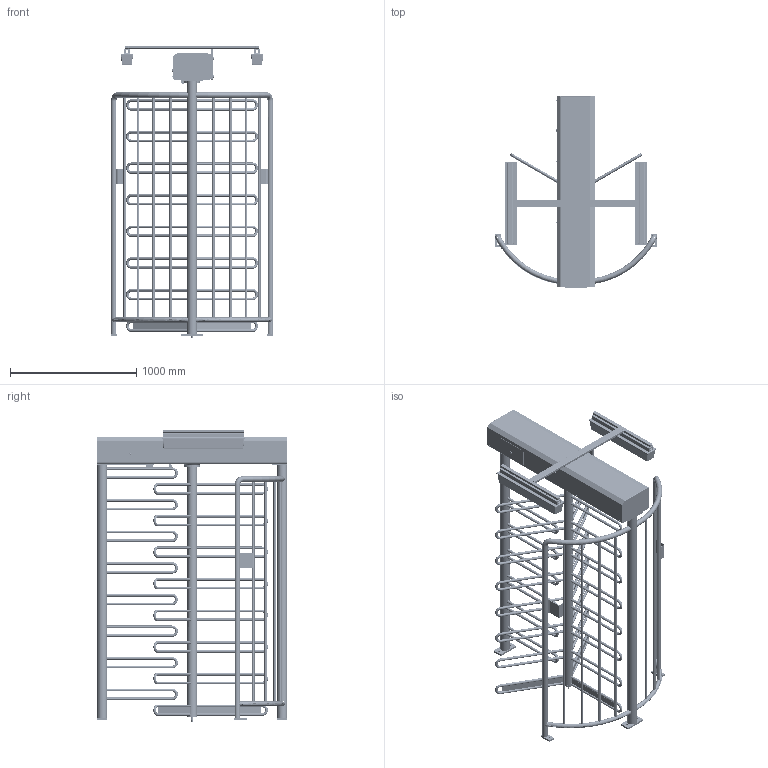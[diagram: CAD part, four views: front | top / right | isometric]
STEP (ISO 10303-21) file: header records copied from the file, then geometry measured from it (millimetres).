
FILE_DESCRIPTION(/* description */ ('KPW JC004 closed'),/* implementation_level */ '2;1');
FILE_NAME(/* name */ 'MPT-330C-Z300',/* time_stamp */ '2021-02-25T11:41:52+01:00',/* author */ ('Unknown'),/* organization */ ('Unknown'),/* preprocessor_version */ 'ST-DEVELOPER v16.7',/* originating_system */ 'DEX',/* authorisation */ $);
FILE_SCHEMA (('AUTOMOTIVE_DESIGN {1 0 10303 214 3 1 1}'));
Products named in the file (126): MPT-330C-Z300; 20595045; 20525067; 20525052; 20525058; 20525055; 20645030; 20645027; 20645033; 20525061; 20195073; 10456013_oa_0; 20595101; 20595101a; 20595101d; 20595101b; 20595101c; 10565510_oa_1; 10565503_geschlossen_oa_2; 10565503b_oa_3; 20160171; 20650035; 20650035b; 20650035a; 34905005; 10085031; 20295096 ohne Bohrungen; 20295096a Haube ohne Bohrungen; 20295096b; Einpress-Gewindebolzen-M4x12; 20435304; 20435304a; gewindeschweissbolzen_m4x12; Schweißbolzen_D5x8; 34680028; 34680028a; 20580026; 34680028c; 34680028b; 34680028d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
Assembly tree (263 placements, depth 7):
  MPT-330C-Z300
    20595045
      20525067
      20525052
      20525058  x8
      20525055
      20645030
      20645027  x2
      20645033
      20525061  x2
      20195073  x2
    10456013_oa_0
      20595101
        20595101a
        20595101d
        20595101b
        20595101c
      10565510_oa_1
        10565503_geschlossen_oa_2
          10565503b_oa_3
            20160171
            20650035  x4
              20650035b
              20650035a
            34905005
      10085031
        20295096 ohne Bohrungen
          20295096a Haube ohne Bohrungen
          20295096b
          Einpress-Gewindebolzen-M4x12
        20435304
          20435304a
          gewindeschweissbolzen_m4x12
          Schweißbolzen_D5x8  x2
        34680028
          34680028a
          20580026
          34680028c
          34680028b
          34680028d
        32425001  x2
        31475003
        35000014  x4
        34840075  x4
        30980030  x4
        20180332
          20180332a
        33300014  x2
        34950006  x2
        34980023  x2
        33060012  x4
        34980004  x4
        20180333
          20180333a
          20180333b
        20186013
      34905008  x4
      33060007  x2
      34980020  x2
      34950006
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Bounding box: 1288.03 x 1510 x 2309 mm (x, y, z)
Volume: 28648847 mm3; surface area: 16739701.3 mm2
Topology: 278 solids, 283 shells, 5828 faces, 14439 edges, 9286 vertices
Faces by surface type: plane 3487, cylinder 1437, cone 475, bspline 221, torus 166, sphere 42
Full cylindrical faces by diameter (mm): 0.1 x11, 1 x9, 1.7 x2, 3 x2, 3.3 x4, 4 x4, 4.019 x8, 4.02 x1, 4.2 x10, 4.3 x4, 4.5 x3, 4.773 x4, 5 x30, 5.3 x12, 5.5 x5, 5.9 x1, 6 x14, 6.4 x7, 6.5 x5, 6.75 x4, 6.8 x3, 7 x2, 7.95 x8, 8 x21, 8.16 x2, 8.376 x2, 8.4 x2, 8.5 x41, 8.7 x2, 9 x8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
Entity records: 103980 total; most frequent: CARTESIAN_POINT 24918, DIRECTION 14746, ORIENTED_EDGE 14709, EDGE_CURVE 7357, VERTEX_POINT 5049, LINE 4992, VECTOR 4992, AXIS2_PLACEMENT_3D 4877
